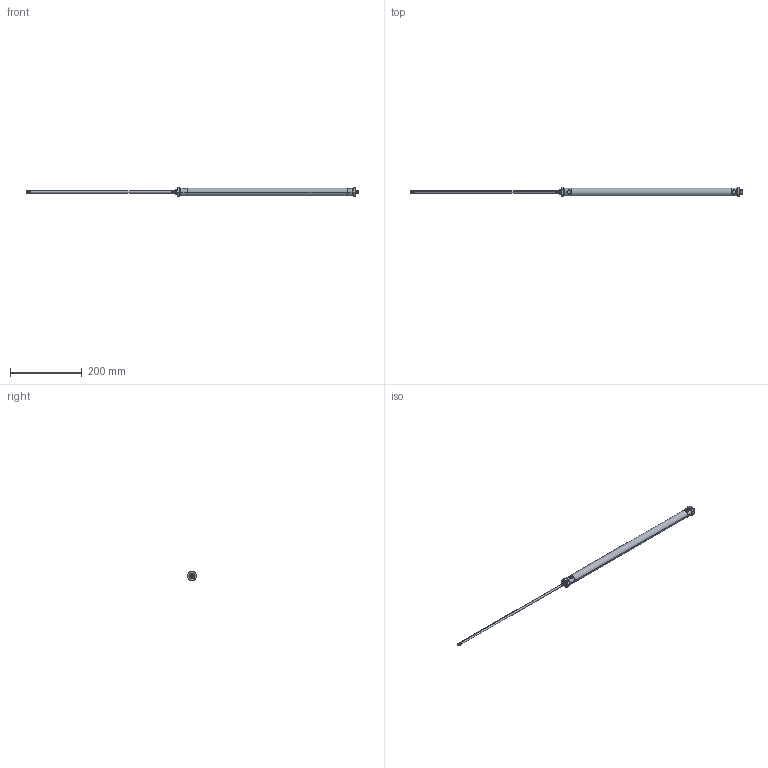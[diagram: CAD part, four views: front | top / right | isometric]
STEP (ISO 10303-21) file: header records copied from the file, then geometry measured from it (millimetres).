
FILE_DESCRIPTION (( 'STEP AP203' ), '1' );
FILE_NAME ('6498K405.step', '2015-02-20T19:51:34', ( '' ), ( '' ), 'SwSTEP 2.0', 'SolidWorks 2010', '' );
FILE_SCHEMA (( 'CONFIG_CONTROL_DESIGN' ));
Products named in the file (1): 6498K405
Bounding box: 927.86 x 27.5 x 23.81 mm (x, y, z)
Volume: 213399.9 mm3; surface area: 56440.8 mm2
Topology: 5 solids, 5 shells, 298 faces, 792 edges, 512 vertices
Faces by surface type: cylinder 135, bspline 69, cone 50, plane 38, torus 6
Entity records: 37880 total; most frequent: CARTESIAN_POINT 31846, ORIENTED_EDGE 1584, DIRECTION 878, EDGE_CURVE 792, VERTEX_POINT 512, AXIS2_PLACEMENT_3D 345, EDGE_LOOP 312, FACE_OUTER_BOUND 298
